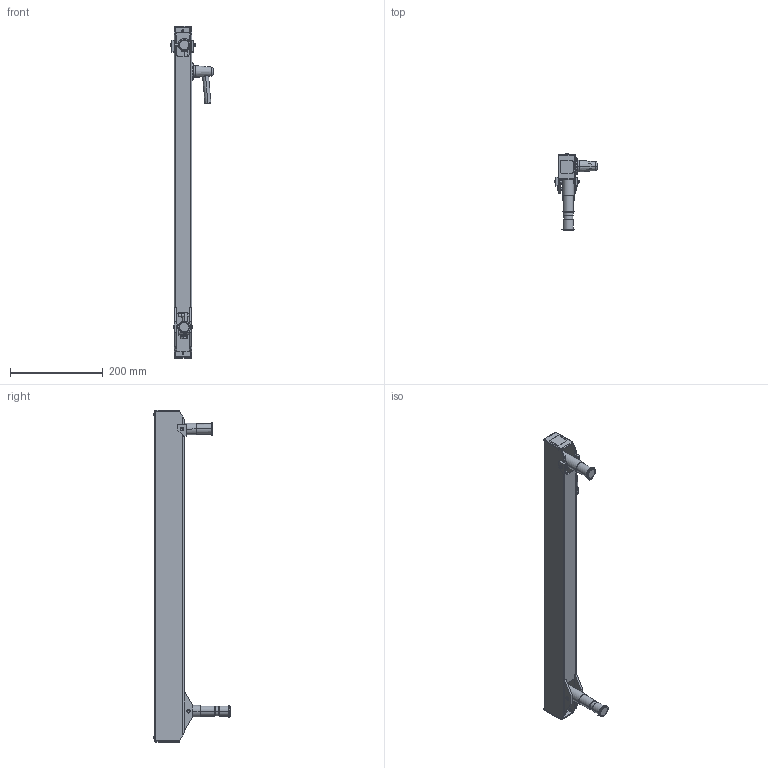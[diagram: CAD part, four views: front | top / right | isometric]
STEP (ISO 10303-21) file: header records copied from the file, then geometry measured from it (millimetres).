
FILE_DESCRIPTION (( 'STEP AP203' ), '1' );
FILE_NAME ('70-2445-00 REV AA, FLEX SECTION, 24in, 20-45 LB - HORIZONTAL.STEP', '2025-06-17T23:56:01', ( '' ), ( '' ), 'SwSTEP 2.0', 'SolidWorks 2025', '' );
FILE_SCHEMA (( 'CONFIG_CONTROL_DESIGN' ));
Length unit declared in the file: inch
Products named in the file (37): 70-2445-00 REV AA,  FLEX SECTION, 24in, 20-45 LB - HORIZONTAL; 004-144-00; 71-0071-RX REV AA, AXLE PIN, LONG; 71-0030-RX REV AA, KNUCKLE, LOAD_MACHINE; 71-0972-99 REV 1, END CAP, FLEX; 006-004-00_006-004-00; 71-0059-RX REV AA, BUSHING, GUIDE, 24in DOUBLE SPRING; 71-0070-RX REV AA, AXLE PIN, SHORT; 71-0028-RX REV AA, TAB, MOUNT_MACHINE; 013-036-00, SPRING, GREEN, 1x8_ISO425203; 71-0029-RX REV AA, TAB, LOAD; 002-041-00_002-041-00; 71-0037-75 REV 1, PIVOT, THREADED, SS_MACHINE; 71-2400-RX REV AA, HOUSING, 24in FLEX; 71-0031-RX REV AA, KNUCKLE, MOUNT_MACHINE; 71-2401-BLKX REV AA, FLEX HOUSING, 24in, BLACK; 11-0650-00 REV AA, BRAKE HANDLE ASSEMBLY; 71-0038-RX REV AA, PIVOT, KNUCKLE, ELECTROLESS NICKEL; 010-011-00, RETAINING RING, EXT, .250 SHAFT_010-011-00; 71-1051-RX REV AA, SPRING BLOCK; 71-0058-RX REV AA, BAR, GUIDE, 24in DOUBLE SPRING; 005-084-00, BOLT, 1''4-20x2.75; 71-2033-99 REV AA, BOLT, ADJUSTING, 12.120; 006-059-00; 016-070-00, BEARING, PLASTIC, .5ID x .625 OD x .75; 007-036-00, SHSS, 1''4-28, .25L_007-036-00; 004-050-00, WASHER, FIBER, .032 THK, .265ID; 11-0602-RX REV AA, HANDLE, BRAKE ASSEMBLY; 71-0040-RX REV AA, BRAKE BLOCK, WIDE_MACHINE; 010-012-00, RETAINING RING, EXTERNAL, .875in SHAFT; 71-3032-RX REV AA, SPRING ROD, 24in FLEX; 71-0057-WDX REV AA, GUIDE WELDMENT, 24in DOUBLE SPRING GUIDE; 11-0601-99 REV AA, CONICAL KNOB, BRAKE ASSEMBLY; 11-0027-RX REV AA, PLASTIC DISC, BRAKE ASSEMBLY_MACHINE; 11-020-RX REV AA, PIN, KNURLED, 1.0LG x .25OD; 71-0060-00; 011-033-00
Assembly tree (57 placements, depth 3):
  70-2445-00 REV AA,  FLEX SECTION, 24in, 20-45 LB - HORIZONTAL
    71-0031-RX REV AA, KNUCKLE, MOUNT_MACHINE
    71-1051-RX REV AA, SPRING BLOCK
    71-3032-RX REV AA, SPRING ROD, 24in FLEX
    71-0030-RX REV AA, KNUCKLE, LOAD_MACHINE
    71-0038-RX REV AA, PIVOT, KNUCKLE, ELECTROLESS NICKEL
    71-0037-75 REV 1, PIVOT, THREADED, SS_MACHINE
    71-0040-RX REV AA, BRAKE BLOCK, WIDE_MACHINE
    71-2033-99 REV AA, BOLT, ADJUSTING, 12.120
    71-2401-BLKX REV AA, FLEX HOUSING, 24in, BLACK
      71-2400-RX REV AA, HOUSING, 24in FLEX
      71-0029-RX REV AA, TAB, LOAD  x2
      71-0028-RX REV AA, TAB, MOUNT_MACHINE  x2
    71-0070-RX REV AA, AXLE PIN, SHORT
    71-0071-RX REV AA, AXLE PIN, LONG
    71-0972-99 REV 1, END CAP, FLEX  x2
    11-0027-RX REV AA, PLASTIC DISC, BRAKE ASSEMBLY_MACHINE
    71-0057-WDX REV AA, GUIDE WELDMENT, 24in DOUBLE SPRING GUIDE
      71-0058-RX REV AA, BAR, GUIDE, 24in DOUBLE SPRING
      71-0059-RX REV AA, BUSHING, GUIDE, 24in DOUBLE SPRING  x2
    71-0060-00  x2
    11-0650-00 REV AA, BRAKE HANDLE ASSEMBLY
      11-0601-99 REV AA, CONICAL KNOB, BRAKE ASSEMBLY
      11-0602-RX REV AA, HANDLE, BRAKE ASSEMBLY
      11-0027-RX REV AA, PLASTIC DISC, BRAKE ASSEMBLY_MACHINE
      005-084-00, BOLT, 1''4-20x2.75
    010-012-00, RETAINING RING, EXTERNAL, .875in SHAFT  x2
    013-036-00, SPRING, GREEN, 1x8_ISO425203  x2
    010-011-00, RETAINING RING, EXT, .250 SHAFT_010-011-00  x4
    007-036-00, SHSS, 1''4-28, .25L_007-036-00
    016-070-00, BEARING, PLASTIC, .5ID x .625 OD x .75  x2
    011-033-00  x2
    11-020-RX REV AA, PIN, KNURLED, 1.0LG x .25OD  x2
    004-144-00  x3
    006-059-00
    004-050-00, WASHER, FIBER, .032 THK, .265ID  x4
    006-004-00_006-004-00  x2
    002-041-00_002-041-00  x2
Bounding box: 91.63 x 165.23 x 717.3 mm (x, y, z)
Volume: 698934.5 mm3; surface area: 476880.5 mm2
Topology: 57 solids, 57 shells, 1169 faces, 2846 edges, 1790 vertices
Faces by surface type: cylinder 472, plane 396, cone 217, torus 45, bspline 33, sphere 6
Entity records: 65216 total; most frequent: CARTESIAN_POINT 41755, ORIENTED_EDGE 3964, DIRECTION 3947, EDGE_CURVE 1982, AXIS2_PLACEMENT_3D 1515, VERTEX_POINT 1246, VECTOR 917, LINE 917
